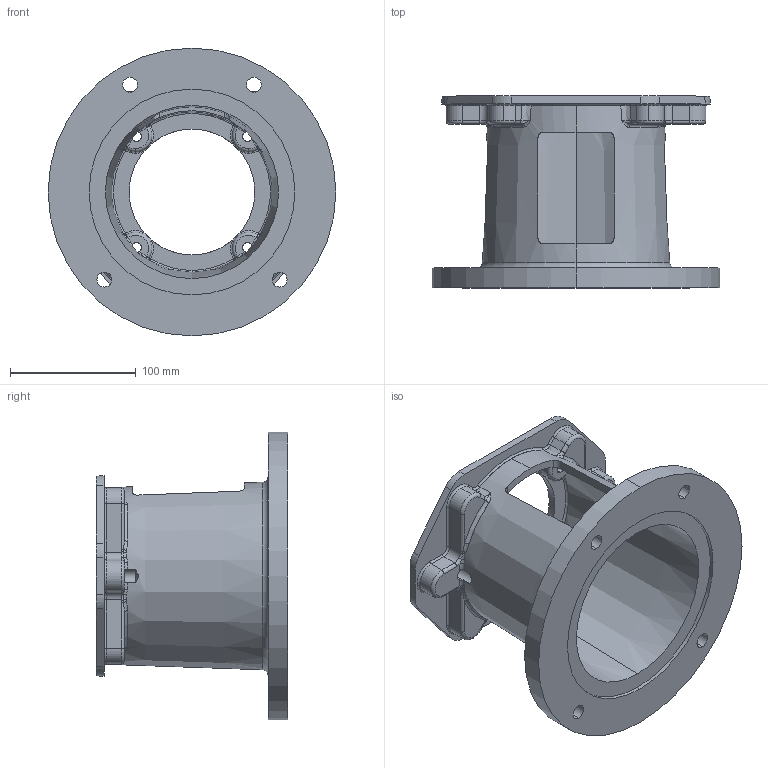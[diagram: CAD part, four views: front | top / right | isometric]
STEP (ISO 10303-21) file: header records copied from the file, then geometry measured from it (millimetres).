
FILE_DESCRIPTION (( 'STEP AP203' ), '1' );
FILE_NAME ('E64460100M.STEP', '2014-11-03T18:48:13', ( '' ), ( '' ), 'SwSTEP 2.0', 'SolidWorks 2014', '' );
FILE_SCHEMA (( 'CONFIG_CONTROL_DESIGN' ));
Length unit declared in the file: inch
Products named in the file (1): E64460100M
Bounding box: 228.6 x 152.4 x 228.6 mm (x, y, z)
Volume: 923442.3 mm3; surface area: 222853.6 mm2
Topology: 1 solids, 1 shells, 294 faces, 772 edges, 451 vertices
Faces by surface type: torus 79, cylinder 74, bspline 64, plane 43, cone 18, sphere 16
Entity records: 11615 total; most frequent: CARTESIAN_POINT 4730, ORIENTED_EDGE 1496, DIRECTION 1434, EDGE_CURVE 748, AXIS2_PLACEMENT_3D 643, VERTEX_POINT 451, CIRCLE 412, EDGE_LOOP 313
